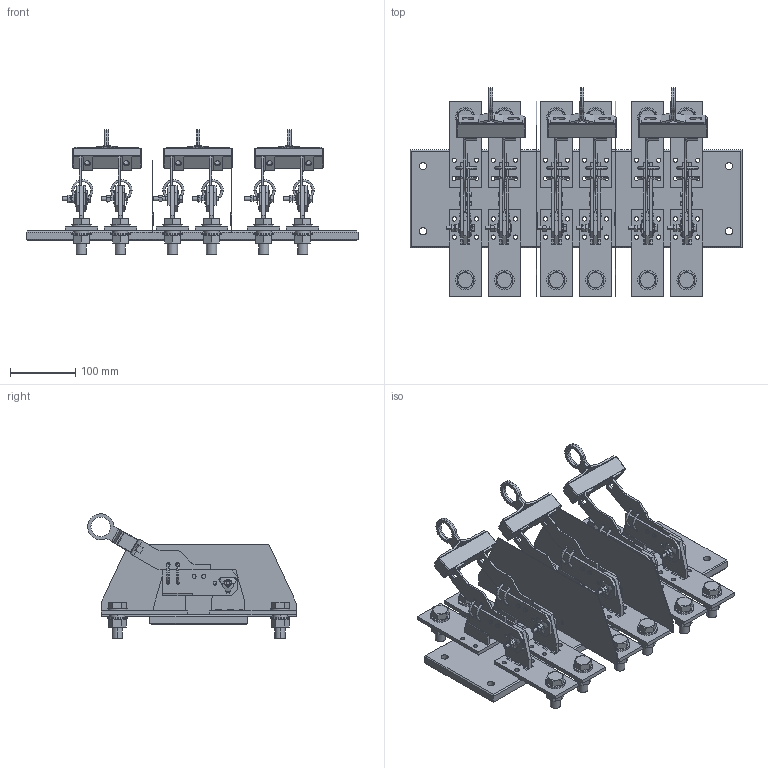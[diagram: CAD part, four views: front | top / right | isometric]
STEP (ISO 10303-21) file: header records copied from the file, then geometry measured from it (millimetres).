
FILE_DESCRIPTION (( 'STEP AP214' ), '1' );
FILE_NAME ('Ðàçúåäèíèòåëü ÐÅ19-44-31160-2000À-ÈÏ-ÌÏ140-ÓÕË3-ÊÝÀÇ.STEP', '2023-08-21T13:18:59', ( '' ), ( '' ), 'SwSTEP 2.0', 'SolidWorks 2018', '' );
FILE_SCHEMA (( 'AUTOMOTIVE_DESIGN' ));
Length unit declared in the file: millimetre
Products named in the file (1): Ðàçúåäèíèòåëü ÐÅ19-44-31160-2000À-ÈÏ-ÌÏ140-ÓÕË3-ÊÝÀÇ
Bounding box: 510 x 320.44 x 191.08 mm (x, y, z)
Surface area: 847658.4 mm2 (no closed solid volume)
Topology: 0 solids, 200 shells, 1695 faces, 5820 edges, 4244 vertices
Faces by surface type: plane 891, cylinder 572, cone 118, torus 94, sphere 20
Entity records: 85927 total; most frequent: CARTESIAN_POINT 16591, DIRECTION 10656, ORIENTED_EDGE 9265, EDGE_CURVE 5794, VERTEX_POINT 4244, AXIS2_PLACEMENT_3D 3795, LINE 3066, VECTOR 3066
